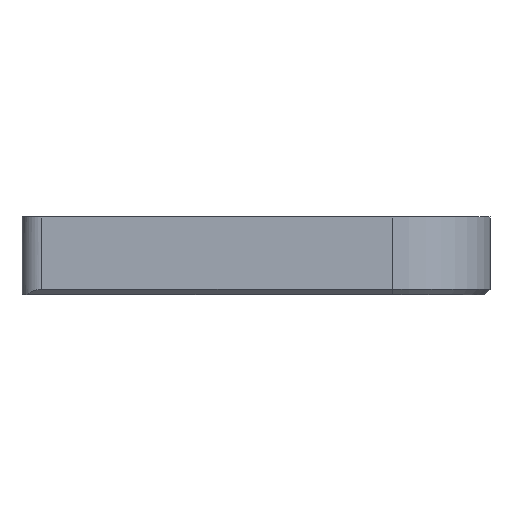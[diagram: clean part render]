
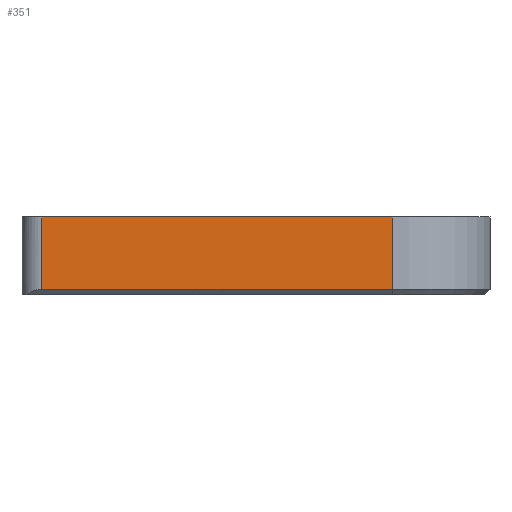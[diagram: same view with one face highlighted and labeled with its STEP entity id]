
A CAD part, left-side view. The second image highlights one B-rep face of the part: STEP entity #351.
In plain terms, the highlighted planar face has unit normal (-1, 0, 0).
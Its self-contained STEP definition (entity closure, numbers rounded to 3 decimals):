
#125 = EDGE_CURVE ( 'NONE', #223, #224, #639, .T. ) ;
#127 = ORIENTED_EDGE ( 'NONE', *, *, #233, .T. ) ;
#128 = EDGE_LOOP ( 'NONE', ( #225, #127, #131, #234 ) ) ;
#131 = ORIENTED_EDGE ( 'NONE', *, *, #125, .T. ) ;
#218 = EDGE_CURVE ( 'NONE', #228, #229, #758, .T. ) ;
#223 = VERTEX_POINT ( 'NONE', #754 ) ;
#224 = VERTEX_POINT ( 'NONE', #748 ) ;
#225 = ORIENTED_EDGE ( 'NONE', *, *, #218, .F. ) ;
#228 = VERTEX_POINT ( 'NONE', #743 ) ;
#229 = VERTEX_POINT ( 'NONE', #742 ) ;
#232 = EDGE_CURVE ( 'NONE', #224, #229, #702, .T. ) ;
#233 = EDGE_CURVE ( 'NONE', #228, #223, #698, .T. ) ;
#234 = ORIENTED_EDGE ( 'NONE', *, *, #232, .T. ) ;
#351 = ADVANCED_FACE ( 'NONE', ( #948 ), #952, .T. ) ;
#636 = DIRECTION ( 'NONE',  ( 0., -1., 0. ) ) ;
#637 = VECTOR ( 'NONE', #636, 1000. ) ;
#638 = CARTESIAN_POINT ( 'NONE',  ( -7.005, 1.9, -3.7 ) ) ;
#639 = LINE ( 'NONE', #638, #637 ) ;
#695 = DIRECTION ( 'NONE',  ( 0., 0., -1. ) ) ;
#696 = VECTOR ( 'NONE', #695, 1000. ) ;
#697 = CARTESIAN_POINT ( 'NONE',  ( -7.005, 19.9, -4. ) ) ;
#698 = LINE ( 'NONE', #697, #696 ) ;
#699 = DIRECTION ( 'NONE',  ( 0., 0., 1. ) ) ;
#700 = VECTOR ( 'NONE', #699, 1000. ) ;
#701 = CARTESIAN_POINT ( 'NONE',  ( -7.005, 1.9, -4. ) ) ;
#702 = LINE ( 'NONE', #701, #700 ) ;
#742 = CARTESIAN_POINT ( 'NONE',  ( -7.005, 1.9, 0. ) ) ;
#743 = CARTESIAN_POINT ( 'NONE',  ( -7.005, 19.9, 0. ) ) ;
#748 = CARTESIAN_POINT ( 'NONE',  ( -7.005, 1.9, -3.7 ) ) ;
#754 = CARTESIAN_POINT ( 'NONE',  ( -7.005, 19.9, -3.7 ) ) ;
#755 = DIRECTION ( 'NONE',  ( 0., -1., 0. ) ) ;
#756 = VECTOR ( 'NONE', #755, 1000. ) ;
#757 = CARTESIAN_POINT ( 'NONE',  ( -7.005, 1.9, 0. ) ) ;
#758 = LINE ( 'NONE', #757, #756 ) ;
#943 = DIRECTION ( 'NONE',  ( 0., -1., 0. ) ) ;
#944 = DIRECTION ( 'NONE',  ( -1., 0., 0. ) ) ;
#945 = CARTESIAN_POINT ( 'NONE',  ( -7.005, 1.9, -4. ) ) ;
#947 = AXIS2_PLACEMENT_3D ( 'NONE', #945, #944, #943 ) ;
#948 = FACE_OUTER_BOUND ( 'NONE', #128, .T. ) ;
#952 = PLANE ( 'NONE',  #947 ) ;
